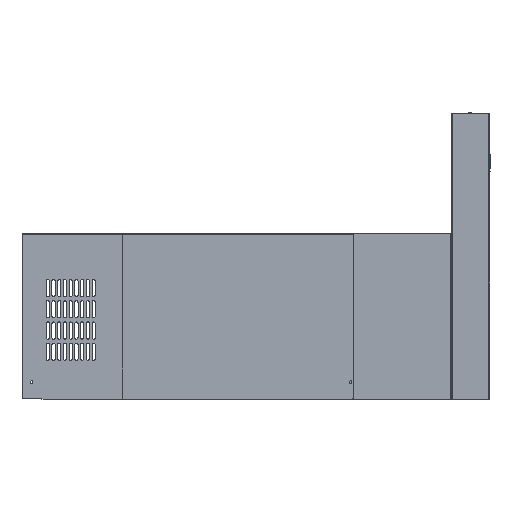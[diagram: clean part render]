
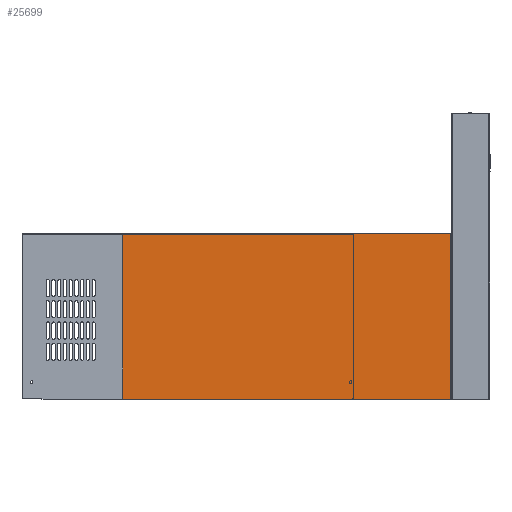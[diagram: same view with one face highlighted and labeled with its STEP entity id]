
A CAD part, left-side view. The second image highlights one B-rep face of the part: STEP entity #25699.
In plain terms, the highlighted planar face has unit normal (-1, 0, 0).
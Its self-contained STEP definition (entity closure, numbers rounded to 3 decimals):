
#24479=CARTESIAN_POINT('Vertex',(-131.9,257.15,-1.3)) ;
#24482=CARTESIAN_POINT('Line Origine',(-131.9,257.15,-1.3)) ;
#24486=CARTESIAN_POINT('Vertex',(-131.9,-257.15,-1.3)) ;
#25669=CARTESIAN_POINT('Axis2P3D Location',(-131.9,0.,0.)) ;
#25674=CARTESIAN_POINT('Line Origine',(-131.9,0.,-260.621)) ;
#25678=CARTESIAN_POINT('Vertex',(-131.9,257.15,-260.621)) ;
#25680=CARTESIAN_POINT('Vertex',(-131.9,-257.15,-260.621)) ;
#25683=CARTESIAN_POINT('Line Origine',(-131.9,-257.15,-130.96)) ;
#25688=CARTESIAN_POINT('Line Origine',(-131.9,257.15,-130.96)) ;
#24483=DIRECTION('Vector Direction',(0.,1.,0.)) ;
#25670=DIRECTION('Axis2P3D Direction',(1.,0.,0.)) ;
#25671=DIRECTION('Axis2P3D XDirection',(0.,0.,-1.)) ;
#25675=DIRECTION('Vector Direction',(0.,-1.,0.)) ;
#25684=DIRECTION('Vector Direction',(0.,0.,1.)) ;
#25689=DIRECTION('Vector Direction',(0.,0.,-1.)) ;
#25672=AXIS2_PLACEMENT_3D('Plane Axis2P3D',#25669,#25670,#25671) ;
#25694=ORIENTED_EDGE('',*,*,#25682,.T.) ;
#25695=ORIENTED_EDGE('',*,*,#25687,.T.) ;
#25696=ORIENTED_EDGE('',*,*,#24488,.F.) ;
#25697=ORIENTED_EDGE('',*,*,#25692,.T.) ;
#24484=VECTOR('Line Direction',#24483,1.) ;
#25676=VECTOR('Line Direction',#25675,1.) ;
#25685=VECTOR('Line Direction',#25684,1.) ;
#25690=VECTOR('Line Direction',#25689,1.) ;
#25699=ADVANCED_FACE('Linea di divisione2',(#25698),#25673,.F.) ;
#24488=EDGE_CURVE('',#24480,#24487,#24485,.F.) ;
#25682=EDGE_CURVE('',#25679,#25681,#25677,.T.) ;
#25687=EDGE_CURVE('',#25681,#24487,#25686,.T.) ;
#25692=EDGE_CURVE('',#24480,#25679,#25691,.T.) ;
#25693=EDGE_LOOP('',(#25694,#25695,#25696,#25697)) ;
#25698=FACE_OUTER_BOUND('',#25693,.T.) ;
#24485=LINE('Line',#24482,#24484) ;
#25677=LINE('Line',#25674,#25676) ;
#25686=LINE('Line',#25683,#25685) ;
#25691=LINE('Line',#25688,#25690) ;
#25673=PLANE('',#25672) ;
#24480=VERTEX_POINT('',#24479) ;
#24487=VERTEX_POINT('',#24486) ;
#25679=VERTEX_POINT('',#25678) ;
#25681=VERTEX_POINT('',#25680) ;
